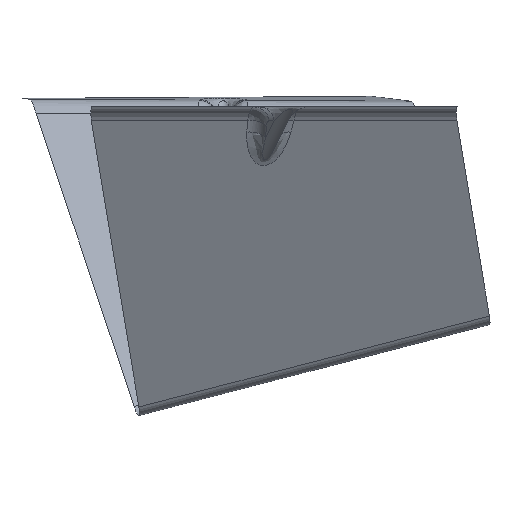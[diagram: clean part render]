
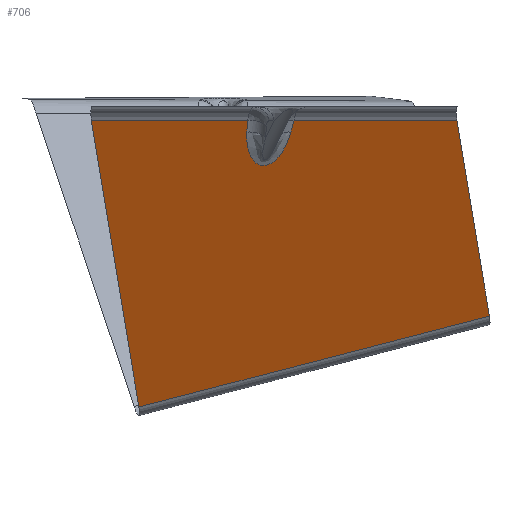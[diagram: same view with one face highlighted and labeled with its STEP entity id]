
A CAD part, left-side view. The second image highlights one B-rep face of the part: STEP entity #706.
In plain terms, the highlighted planar face has unit normal (-0.83, -0.249, -0.5).
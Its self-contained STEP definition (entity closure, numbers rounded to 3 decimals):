
#251=CARTESIAN_POINT('Vertex',(-87.76,7.288,-1.3)) ;
#274=CARTESIAN_POINT('Line Origine',(-70.11,9.361,-31.614)) ;
#278=CARTESIAN_POINT('Vertex',(-85.92,7.504,-4.461)) ;
#591=CARTESIAN_POINT('Control Point',(-82.298,-4.57,-4.461)) ;
#592=CARTESIAN_POINT('Control Point',(-82.09,-4.465,-4.857)) ;
#593=CARTESIAN_POINT('Control Point',(-81.886,-4.351,-5.252)) ;
#594=CARTESIAN_POINT('Control Point',(-81.685,-4.226,-5.648)) ;
#595=CARTESIAN_POINT('Control Point',(-81.121,-3.838,-6.777)) ;
#596=CARTESIAN_POINT('Control Point',(-80.591,-3.356,-7.897)) ;
#597=CARTESIAN_POINT('Control Point',(-80.264,-3.002,-8.615)) ;
#598=CARTESIAN_POINT('Control Point',(-79.827,-2.43,-9.624)) ;
#599=CARTESIAN_POINT('Control Point',(-79.45,-1.73,-10.599)) ;
#600=CARTESIAN_POINT('Control Point',(-79.345,-1.514,-10.88)) ;
#601=CARTESIAN_POINT('Control Point',(-79.167,-1.094,-11.385)) ;
#602=CARTESIAN_POINT('Control Point',(-79.017,-0.622,-11.869)) ;
#603=CARTESIAN_POINT('Control Point',(-78.956,-0.397,-12.082)) ;
#604=CARTESIAN_POINT('Control Point',(-78.861,0.028,-12.45)) ;
#605=CARTESIAN_POINT('Control Point',(-78.801,0.502,-12.787)) ;
#606=CARTESIAN_POINT('Control Point',(-78.781,0.721,-12.928)) ;
#607=CARTESIAN_POINT('Control Point',(-78.764,1.129,-13.159)) ;
#608=CARTESIAN_POINT('Control Point',(-78.783,1.573,-13.349)) ;
#609=CARTESIAN_POINT('Control Point',(-78.799,1.773,-13.422)) ;
#610=CARTESIAN_POINT('Control Point',(-78.847,2.173,-13.541)) ;
#611=CARTESIAN_POINT('Control Point',(-78.932,2.589,-13.607)) ;
#612=CARTESIAN_POINT('Control Point',(-78.982,2.791,-13.624)) ;
#613=CARTESIAN_POINT('Control Point',(-79.112,3.233,-13.63)) ;
#614=CARTESIAN_POINT('Control Point',(-79.277,3.655,-13.566)) ;
#615=CARTESIAN_POINT('Control Point',(-79.375,3.873,-13.511)) ;
#616=CARTESIAN_POINT('Control Point',(-79.708,4.53,-13.286)) ;
#617=CARTESIAN_POINT('Control Point',(-80.082,5.061,-12.93)) ;
#618=CARTESIAN_POINT('Control Point',(-80.343,5.373,-12.651)) ;
#619=CARTESIAN_POINT('Control Point',(-80.782,5.828,-12.15)) ;
#620=CARTESIAN_POINT('Control Point',(-81.217,6.187,-11.606)) ;
#621=CARTESIAN_POINT('Control Point',(-81.395,6.32,-11.379)) ;
#622=CARTESIAN_POINT('Control Point',(-81.796,6.597,-10.851)) ;
#623=CARTESIAN_POINT('Control Point',(-82.191,6.819,-10.306)) ;
#624=CARTESIAN_POINT('Control Point',(-82.41,6.928,-9.997)) ;
#625=CARTESIAN_POINT('Control Point',(-82.897,7.144,-9.296)) ;
#626=CARTESIAN_POINT('Control Point',(-83.374,7.299,-8.582)) ;
#627=CARTESIAN_POINT('Control Point',(-83.636,7.369,-8.182)) ;
#628=CARTESIAN_POINT('Control Point',(-84.265,7.503,-7.205)) ;
#629=CARTESIAN_POINT('Control Point',(-84.877,7.556,-6.217)) ;
#630=CARTESIAN_POINT('Control Point',(-85.231,7.562,-5.633)) ;
#631=CARTESIAN_POINT('Control Point',(-85.578,7.544,-5.047)) ;
#632=CARTESIAN_POINT('Control Point',(-85.92,7.504,-4.461)) ;
#633=CARTESIAN_POINT('Vertex',(-82.298,-4.57,-4.461)) ;
#651=CARTESIAN_POINT('Axis2P3D Location',(-39.18,-11.754,-72.418)) ;
#656=CARTESIAN_POINT('Line Origine',(-83.125,-4.986,-2.88)) ;
#660=CARTESIAN_POINT('Vertex',(-83.953,-5.402,-1.3)) ;
#663=CARTESIAN_POINT('Line Origine',(-94.174,28.666,-1.3)) ;
#667=CARTESIAN_POINT('Vertex',(-100.587,50.044,-1.3)) ;
#670=CARTESIAN_POINT('Line Origine',(-75.016,43.543,-40.486)) ;
#674=CARTESIAN_POINT('Vertex',(-49.446,37.042,-79.673)) ;
#677=CARTESIAN_POINT('Line Origine',(-42.565,-10.893,-67.23)) ;
#681=CARTESIAN_POINT('Vertex',(-35.684,-58.829,-54.788)) ;
#684=CARTESIAN_POINT('Line Origine',(-53.136,-54.392,-28.044)) ;
#688=CARTESIAN_POINT('Vertex',(-70.587,-49.956,-1.3)) ;
#691=CARTESIAN_POINT('Line Origine',(-77.27,-27.679,-1.3)) ;
#275=DIRECTION('Vector Direction',(0.502,0.059,-0.863)) ;
#652=DIRECTION('Axis2P3D Direction',(0.83,0.249,0.5)) ;
#653=DIRECTION('Axis2P3D XDirection',(0.541,-0.138,-0.83)) ;
#657=DIRECTION('Vector Direction',(-0.452,-0.227,0.863)) ;
#664=DIRECTION('Vector Direction',(0.287,-0.958,0.)) ;
#671=DIRECTION('Vector Direction',(0.541,-0.138,-0.83)) ;
#678=DIRECTION('Vector Direction',(0.138,-0.959,0.249)) ;
#685=DIRECTION('Vector Direction',(-0.541,0.138,0.83)) ;
#692=DIRECTION('Vector Direction',(0.287,-0.958,0.)) ;
#654=AXIS2_PLACEMENT_3D('Plane Axis2P3D',#651,#652,#653) ;
#697=ORIENTED_EDGE('',*,*,#662,.T.) ;
#698=ORIENTED_EDGE('',*,*,#635,.T.) ;
#699=ORIENTED_EDGE('',*,*,#280,.T.) ;
#700=ORIENTED_EDGE('',*,*,#669,.F.) ;
#701=ORIENTED_EDGE('',*,*,#676,.T.) ;
#702=ORIENTED_EDGE('',*,*,#683,.T.) ;
#703=ORIENTED_EDGE('',*,*,#690,.T.) ;
#704=ORIENTED_EDGE('',*,*,#695,.F.) ;
#276=VECTOR('Line Direction',#275,1.) ;
#658=VECTOR('Line Direction',#657,1.) ;
#665=VECTOR('Line Direction',#664,1.) ;
#672=VECTOR('Line Direction',#671,1.) ;
#679=VECTOR('Line Direction',#678,1.) ;
#686=VECTOR('Line Direction',#685,1.) ;
#693=VECTOR('Line Direction',#692,1.) ;
#706=ADVANCED_FACE('Extract.1',(#705),#655,.F.) ;
#590=B_SPLINE_CURVE_WITH_KNOTS('',5,(#591,#592,#593,#594,#595,#596,#597,#598,#599,#600,#601,#602,#603,#604,#605,#606,#607,#608,#609,#610,#611,#612,#613,#614,#615,#616,#617,#618,#619,#620,#621,#622,#623,#624,#625,#626,#627,#628,#629,#630,#631,#632),.UNSPECIFIED.,.F.,.U.,(6,3,3,3,3,3,3,3,3,3,3,3,3,6),(22.541,25.6,31.294,33.649,35.585,37.103,38.268,39.363,40.666,43.519,45.507,48.039,51.196,55.724),.UNSPECIFIED.) ;
#280=EDGE_CURVE('',#279,#252,#277,.F.) ;
#635=EDGE_CURVE('',#634,#279,#590,.T.) ;
#662=EDGE_CURVE('',#661,#634,#659,.F.) ;
#669=EDGE_CURVE('',#668,#252,#666,.T.) ;
#676=EDGE_CURVE('',#668,#675,#673,.T.) ;
#683=EDGE_CURVE('',#675,#682,#680,.T.) ;
#690=EDGE_CURVE('',#682,#689,#687,.T.) ;
#695=EDGE_CURVE('',#661,#689,#694,.T.) ;
#696=EDGE_LOOP('',(#697,#698,#699,#700,#701,#702,#703,#704)) ;
#705=FACE_OUTER_BOUND('',#696,.T.) ;
#277=LINE('Line',#274,#276) ;
#659=LINE('Line',#656,#658) ;
#666=LINE('Line',#663,#665) ;
#673=LINE('Line',#670,#672) ;
#680=LINE('Line',#677,#679) ;
#687=LINE('Line',#684,#686) ;
#694=LINE('Line',#691,#693) ;
#655=PLANE('',#654) ;
#252=VERTEX_POINT('',#251) ;
#279=VERTEX_POINT('',#278) ;
#634=VERTEX_POINT('',#633) ;
#661=VERTEX_POINT('',#660) ;
#668=VERTEX_POINT('',#667) ;
#675=VERTEX_POINT('',#674) ;
#682=VERTEX_POINT('',#681) ;
#689=VERTEX_POINT('',#688) ;
